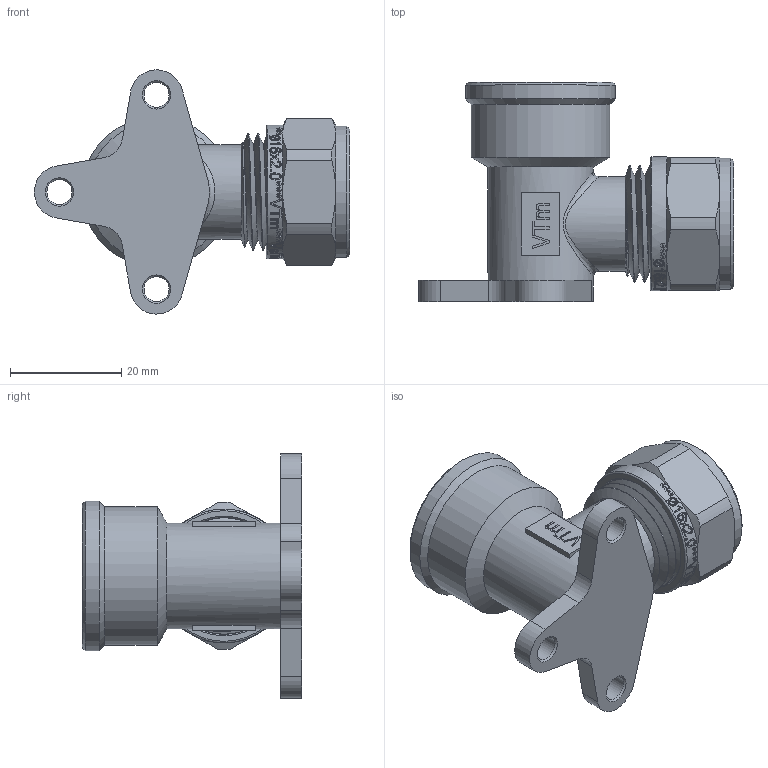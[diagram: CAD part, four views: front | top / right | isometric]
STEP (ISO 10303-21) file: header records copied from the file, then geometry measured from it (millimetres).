
FILE_DESCRIPTION(/* description */ (''),/* implementation_level */ '2;1');
FILE_NAME(/* name */ 'F:\Артём\00000\Работа удаленка\Обжимные фитинги\VTm.354.N.001604.stp',/* time_stamp */ '2020-08-10T13:20:39+03:00',/* author */ ('almis'),/* organization */ (''),/* preprocessor_version */ 'ST-DEVELOPER v18',/* originating_system */ 'Autodesk Inventor 2020',/* authorisation */ '');
FILE_SCHEMA (('AUTOMOTIVE_DESIGN { 1 0 10303 214 3 1 1 }'));
Length unit declared in the file: millimetre
Products named in the file (1): VTm.301.N.001604
Bounding box: 56.77 x 39.5 x 43.98 mm (x, y, z)
Volume: 15284 mm3; surface area: 12409.1 mm2
Topology: 1 solids, 2 shells, 778 faces, 2164 edges, 1452 vertices
Faces by surface type: bspline 365, plane 257, cylinder 97, cone 34, torus 25
Full cylindrical faces by diameter (mm): 4.5 x3, 8 x1, 9.4 x2, 11.75 x4, 14 x1, 16.124 x4, 16.2 x1, 16.724 x5, 17 x1, 17.124 x1, 17.4 x2, 18.6 x6, 18.724 x1, 19 x1, 21 x2, 22.2 x5, 23.624 x1, 24.124 x1, 25 x1, 27 x1
Entity records: 33151 total; most frequent: CARTESIAN_POINT 15427, ORIENTED_EDGE 4328, DIRECTION 2557, EDGE_CURVE 2164, VERTEX_POINT 1453, LINE 997, VECTOR 997, EDGE_LOOP 851
